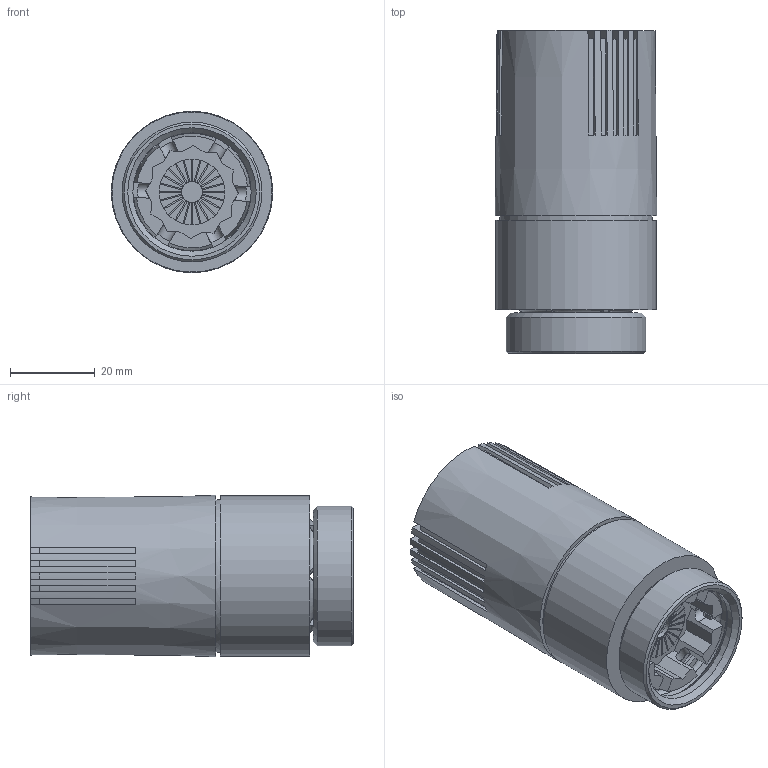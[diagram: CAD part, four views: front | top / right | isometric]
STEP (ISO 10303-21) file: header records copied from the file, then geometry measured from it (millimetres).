
FILE_DESCRIPTION(('STEP AP203'), '1');
FILE_NAME('VT.1500.0.0', '2024-07-02T09:22:54', ('User'), ('Vesta'), 'C3D Converter', 'C3D Toolkit', '');
FILE_SCHEMA(('CONFIG_CONTROL_DESIGN'));
Length unit declared in the file: millimetre
Products named in the file (1): 304555.001.000 СБ
Bounding box: 38 x 75.97 x 38 mm (x, y, z)
Volume: 75000.1 mm3; surface area: 14504 mm2
Topology: 1 solids, 5 shells, 450 faces, 1218 edges, 775 vertices
Faces by surface type: plane 351, cylinder 67, cone 18, torus 8, bspline 6
Full cylindrical faces by diameter (mm): 5 x1, 15.4 x1, 26.1 x1, 27.835 x1, 29 x1, 30.7 x1, 32.9 x1, 36 x1, 37.7 x1
Entity records: 15983 total; most frequent: CARTESIAN_POINT 4675, ORIENTED_EDGE 2400, DIRECTION 2283, EDGE_CURVE 1200, VERTEX_POINT 811, LINE 775, VECTOR 775, AXIS2_PLACEMENT_3D 754
